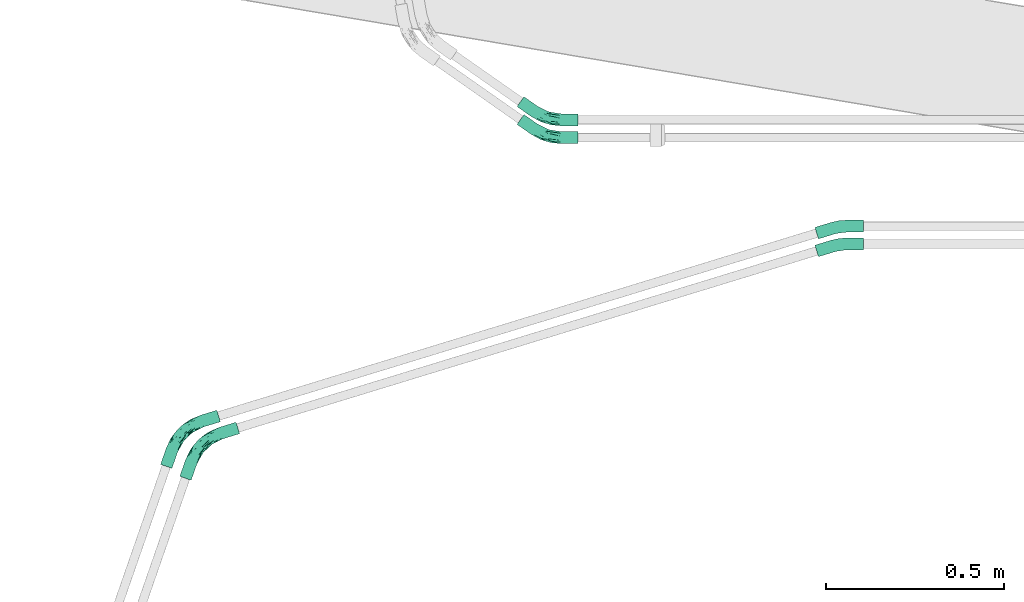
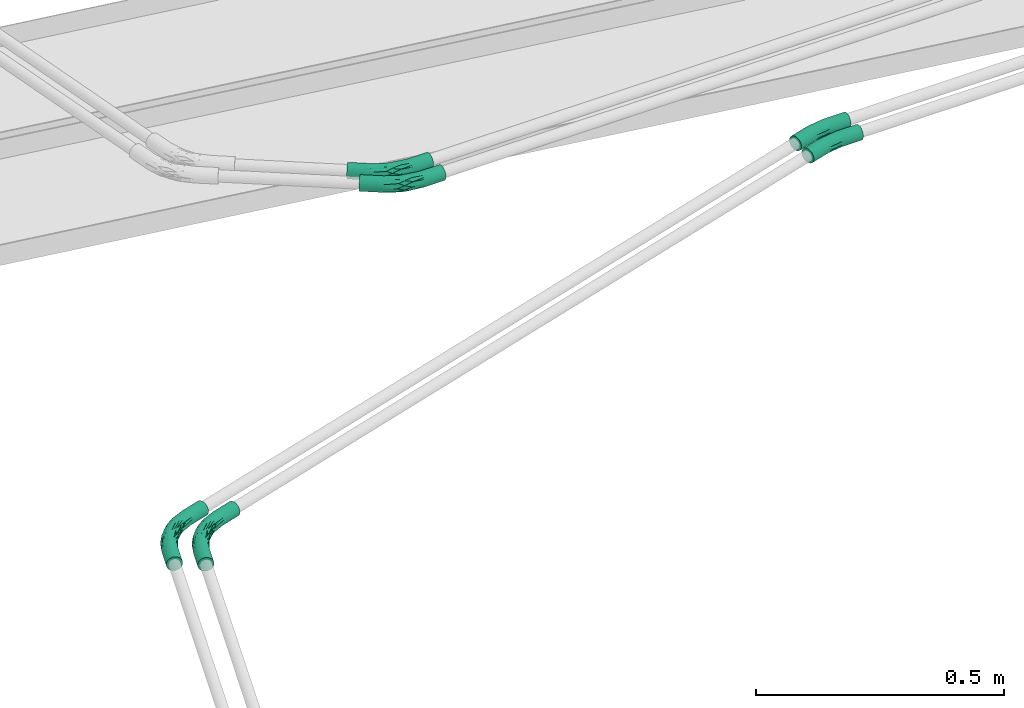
# One storey, part 8 of 22: 6 flow fittings.
"""IFC2X3 building model written with IfcOpenShell, lengths in millimetres."""

from ifc_helpers import new_model, entity, si_unit, converted_unit, derived_unit, direction, frame, origin_with_axes, place, context, subcontext, project, spatial, open_shell, surface_model, source, transform, mapped, type_object, element, save


model = new_model("IFC2X3")

# Units and contexts
model_context = context("Model", 3, precision=0.01, world=frame((0.0, 4.29681676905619e-09, 0.0)), true_north=direction((4.01073788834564e-13, 1.0)))
plan_context = context("Plan", 3, precision=0.01, world=frame((0.0, 4.29681676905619e-09, 0.0)), true_north=direction((4.01073788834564e-13, 1.0)))
body_context = subcontext(model_context, "Body", "Model", "MODEL_VIEW")
ifc_project = project(units=[converted_unit("PLANEANGLEUNIT", "DEGREE", entity("IfcPositiveLengthMeasure", 0.0174532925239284), si_unit("PLANEANGLEUNIT", "RADIAN"), dimensions=[0, 0, 0, 0, 0, 0, 0]), si_unit("AREAUNIT", "SQUARE_METRE"), si_unit("LENGTHUNIT", "METRE", prefix="MILLI"), si_unit("MASSUNIT", "GRAM", prefix="KILO"), si_unit("POWERUNIT", "WATT"), si_unit("PRESSUREUNIT", "PASCAL", prefix="KILO"), si_unit("FORCEUNIT", "NEWTON", prefix="KILO"), si_unit("ELECTRICVOLTAGEUNIT", "VOLT"), si_unit("ELECTRICCURRENTUNIT", "AMPERE"), si_unit("THERMODYNAMICTEMPERATUREUNIT", "DEGREE_CELSIUS"), si_unit("TIMEUNIT", "SECOND"), si_unit("VOLUMEUNIT", "CUBIC_METRE"), derived_unit("LINEARVELOCITYUNIT", [(si_unit("LENGTHUNIT", "METRE"), 1), (si_unit("TIMEUNIT", "SECOND"), -1)]), derived_unit("VOLUMETRICFLOWRATEUNIT", [(si_unit("VOLUMEUNIT", "CUBIC_METRE"), 1), (si_unit("TIMEUNIT", "SECOND"), -1)]), derived_unit("THERMALTRANSMITTANCEUNIT", [(si_unit("POWERUNIT", "WATT"), 1), (si_unit("THERMODYNAMICTEMPERATUREUNIT", "KELVIN"), -1), (si_unit("AREAUNIT", "SQUARE_METRE"), -1)]), derived_unit("SOUNDPRESSUREUNIT", [(si_unit("PRESSUREUNIT", "PASCAL"), 1)])], contexts=[model_context, plan_context])

# Site, building, storey
site_placement = place(None, frame((0.0, -4.29681676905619e-09, 0.0), z_axis=(0.0, 0.0, 1.0), x_axis=(1.0, 0.0, 0.0)))
site = spatial("IfcSite", under=ifc_project, at=site_placement, Name="ENGM", CompositionType="ELEMENT")
building_placement = place(site_placement, frame((0.0, 4.29681676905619e-09, 0.0), z_axis=(0.0, 0.0, 1.0), x_axis=(1.0, 0.0, 0.0)))
building = spatial("IfcBuilding", under=site, at=building_placement, Name="TI", CompositionType="ELEMENT")
storey_placement = place(building_placement, frame((0.0, 0.0, 210900.0), z_axis=(0.0, 0.0, 1.0), x_axis=(1.0, 0.0, 0.0)))
storey = spatial("IfcBuildingStorey", under=building, at=storey_placement, Name="Nivå F", CompositionType="ELEMENT", Elevation=210900.0)

# Flow fittings
cable_carrier_fitting_type = type_object("IfcCableCarrierFittingType", Name="Trekkerør, glatt bend", PredefinedType="BEND")
shared_shape_1 = source(origin_with_axes(), body_context, "Body", "SurfaceModel", [
    surface_model("IfcShellBasedSurfaceModel", [(-67.01386, 8.46055, -14.6541), (-67.01386, 4.3795, -16.34452), (-67.01386, 0.0, -16.92109), (-67.01386, -4.3795, -16.34452), (-67.01386, -8.46055, -14.6541), (-67.01386, -14.6541, -8.46055), (-67.01386, 16.92109, 0.0), (-67.01386, -11.96502, -11.96502), (-67.01386, -11.96502, 11.96502), (-67.01386, 14.6541, -8.46055), (-67.01386, 11.96502, -11.96502), (-67.01386, 16.34452, -4.3795), (-67.01386, -16.34452, -4.3795), (-67.01386, -16.92109, 0.0), (-67.01386, -16.34452, 4.3795), (-67.01386, -14.6541, 8.46055), (-67.01386, 0.0, 16.92109), (-67.01386, -8.46055, 14.6541), (-67.01386, -4.3795, 16.34452), (-67.01386, 14.6541, 8.46055), (-67.01386, 8.46055, 14.6541), (-67.01386, 11.96502, 11.96502), (-67.01386, 16.34452, 4.3795), (-67.01386, 4.3795, 16.34452), (-19.69589, 16.34452, 4.3795), (-19.69589, 16.92109, 0.0), (-19.69589, 14.6541, 8.46055), (-19.69589, 8.46055, 14.6541), (-19.69589, 11.96502, 11.96502), (-19.69589, 4.3795, 16.34452), (-19.69589, 0.0, 16.92109), (-19.69589, -8.46055, 14.6541), (-19.69589, -4.3795, 16.34452), (-19.69589, -11.96502, 11.96502), (-19.69589, -16.34452, 4.3795), (-19.69589, -14.6541, 8.46055), (-19.69589, -16.92109, 0.0), (-19.69589, -16.34452, -4.3795), (-19.69589, -14.6541, -8.46055), (-19.69589, -8.46055, -14.6541), (-19.69589, -11.96502, -11.96502), (-19.69589, -4.3795, -16.34452), (-19.69589, 0.0, -16.92109), (-19.69589, 8.46055, -14.6541), (-19.69589, 4.3795, -16.34452), (-19.69589, 11.96502, -11.96502), (-19.69589, 16.34452, -4.3795), (-19.69589, 14.6541, -8.46055), (22.33351, 5.68368, 11.96502), (21.3089, 2.33234, 14.6541), (20.11572, -1.57038, 16.34452), (18.83527, -5.75852, 16.92109), (17.55483, -9.94666, 16.34452), (23.11972, 8.25526, 8.46055), (14.55083, -19.7723, 8.46055), (15.33704, -17.20073, 11.96502), (14.0566, -21.38887, 4.3795), (-2.71744, -18.18281, 0.0), (16.36165, -13.84938, 14.6541), (2.28475, 15.28765, 0.0), (23.61395, 9.87182, 4.3795), (23.78252, 10.4232, 0.0), (13.88803, -21.94024, 0.0), (20.11572, -1.57038, -16.34452), (18.83527, -5.75852, -16.92109), (14.0566, -21.38887, -4.3795), (16.36165, -13.84938, -14.6541), (17.55483, -9.94666, -16.34452), (15.33704, -17.20073, -11.96502), (23.61395, 9.87182, -4.3795), (22.33351, 5.68368, -11.96502), (23.11972, 8.25526, -8.46055), (21.3089, 2.33234, -14.6541), (14.55083, -19.7723, -8.46055), (64.08567, -19.59296, -16.92109), (67.58391, -8.15075, -11.96502), (62.80523, -23.7811, -16.34452), (61.61205, -27.68382, -14.6541), (59.80123, -33.60674, -8.46055), (60.58744, -31.03516, -11.96502), (69.03292, -3.41123, 0.0), (68.86435, -3.96261, 4.3795), (66.5593, -11.50209, -14.6541), (65.36611, -15.40482, -16.34452), (68.37011, -5.57917, -8.46055), (68.86435, -3.96261, -4.3795), (59.30699, -35.2233, -4.3795), (59.13842, -35.77468, 0.0), (67.58391, -8.15075, 11.96502), (59.30699, -35.2233, 4.3795), (59.80123, -33.60674, 8.46055), (60.58744, -31.03516, 11.96502), (61.61205, -27.68382, 14.6541), (64.08567, -19.59296, 16.92109), (62.80523, -23.7811, 16.34452), (68.37011, -5.57917, 8.46055), (65.36611, -15.40482, 16.34452), (66.5593, -11.50209, 14.6541)], [open_shell([[[0, 1, 2]], [[2, 3, 4]], [[2, 4, 5]], [[2, 5, 6]], [[5, 4, 7]], [[8, 6, 5]], [[0, 9, 10]], [[0, 11, 9]], [[0, 2, 11]], [[6, 11, 2]], [[5, 12, 8]], [[13, 14, 15]], [[13, 15, 8]], [[16, 6, 17]], [[6, 8, 17]], [[16, 17, 18]], [[19, 20, 21]], [[19, 22, 6]], [[20, 16, 23]], [[20, 19, 6]], [[20, 6, 16]], [[12, 13, 8]], [[24, 25, 22]], [[24, 19, 26]], [[27, 28, 20]], [[21, 28, 26]], [[29, 27, 23]], [[6, 22, 25]], [[22, 19, 24]], [[19, 21, 26]], [[21, 20, 28]], [[27, 20, 23]], [[23, 16, 29]], [[16, 30, 29]], [[31, 32, 17]], [[31, 8, 33]], [[34, 35, 14]], [[15, 35, 33]], [[36, 34, 13]], [[30, 18, 32]], [[18, 17, 32]], [[16, 18, 30]], [[17, 8, 31]], [[8, 15, 33]], [[35, 15, 14]], [[14, 13, 34]], [[37, 36, 12]], [[37, 5, 38]], [[39, 40, 4]], [[7, 40, 38]], [[41, 39, 3]], [[13, 12, 36]], [[12, 5, 37]], [[5, 7, 38]], [[7, 4, 40]], [[39, 4, 3]], [[3, 2, 41]], [[2, 42, 41]], [[43, 44, 0]], [[43, 10, 45]], [[46, 47, 11]], [[9, 47, 45]], [[25, 46, 6]], [[42, 1, 44]], [[1, 0, 44]], [[2, 1, 42]], [[0, 10, 43]], [[10, 9, 45]], [[47, 9, 11]], [[11, 6, 46]], [[48, 26, 28]], [[28, 27, 49]], [[27, 29, 50]], [[29, 30, 51]], [[52, 30, 32]], [[26, 53, 24]], [[54, 33, 35]], [[33, 55, 31]], [[56, 34, 57]], [[34, 36, 57]], [[35, 34, 56]], [[32, 31, 58]], [[59, 25, 24]], [[27, 50, 49]], [[49, 48, 28]], [[29, 51, 50]], [[60, 24, 53]], [[48, 53, 26]], [[60, 61, 59]], [[35, 56, 54]], [[56, 57, 62]], [[52, 32, 58]], [[55, 58, 31]], [[55, 33, 54]], [[51, 30, 52]], [[60, 59, 24]], [[63, 42, 44]], [[64, 41, 42]], [[37, 38, 65]], [[39, 66, 40]], [[67, 39, 41]], [[40, 68, 38]], [[46, 25, 59]], [[46, 59, 69]], [[43, 45, 70]], [[69, 47, 46]], [[47, 71, 45]], [[44, 43, 72]], [[57, 36, 37]], [[65, 62, 57]], [[38, 73, 65]], [[68, 40, 66]], [[67, 66, 39]], [[38, 68, 73]], [[41, 64, 67]], [[63, 44, 72]], [[72, 43, 70]], [[69, 71, 47]], [[59, 61, 69]], [[70, 45, 71]], [[42, 63, 64]], [[65, 57, 37]], [[74, 75, 76]], [[77, 76, 78]], [[78, 76, 75]], [[79, 77, 78]], [[78, 80, 81]], [[82, 75, 83]], [[75, 74, 83]], [[84, 85, 75]], [[80, 75, 85]], [[75, 80, 78]], [[81, 86, 78]], [[87, 88, 89]], [[90, 89, 91]], [[88, 92, 89]], [[91, 89, 92]], [[92, 93, 94]], [[95, 88, 81]], [[88, 87, 81]], [[96, 93, 97]], [[88, 97, 93]], [[88, 93, 92]], [[86, 81, 87]], [[81, 80, 60]], [[81, 53, 95]], [[97, 88, 49]], [[48, 88, 95]], [[96, 97, 50]], [[61, 60, 80]], [[60, 53, 81]], [[53, 48, 95]], [[48, 49, 88]], [[97, 49, 50]], [[50, 51, 96]], [[51, 93, 96]], [[92, 94, 58]], [[92, 55, 91]], [[89, 90, 56]], [[54, 90, 91]], [[87, 89, 62]], [[93, 52, 94]], [[52, 58, 94]], [[51, 52, 93]], [[58, 55, 92]], [[55, 54, 91]], [[90, 54, 56]], [[56, 62, 89]], [[86, 87, 62]], [[86, 65, 78]], [[67, 76, 77]], [[68, 77, 79]], [[79, 78, 73]], [[65, 73, 78]], [[86, 62, 65]], [[66, 77, 68]], [[67, 77, 66]], [[67, 64, 76]], [[79, 73, 68]], [[64, 74, 76]], [[82, 83, 72]], [[82, 70, 75]], [[85, 84, 69]], [[71, 84, 75]], [[80, 85, 61]], [[74, 63, 83]], [[63, 72, 83]], [[64, 63, 74]], [[72, 70, 82]], [[70, 71, 75]], [[84, 71, 69]], [[69, 61, 85]]])]),
])
for number, where, z_axis, x_axis, name in (
    (1, (586178.42792, 576401.49851, -56.7999999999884), (0.0, 0.0, 1.0), (0.956304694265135, 0.292371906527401, 0.0), "Trekkerør, glatt bend"),
    (2, (586178.42792, 576451.49851, -56.7999999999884), (0.0, 0.0, 1.0), (0.956304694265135, 0.292371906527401, 0.0), "Trekkerør, glatt bend"),
):
    element("IfcFlowFitting", number, at=place(storey_placement, frame(where, z_axis=z_axis, x_axis=x_axis)), inside=storey, type_object=cable_carrier_fitting_type, Name=name, context=body_context, shape_type="MappedRepresentation", body=[
        mapped(shared_shape_1, transform((0.0, 0.0, 0.0), scale=1.0)),
    ])
shared_shape_2 = source(origin_with_axes(), body_context, "Body", "SurfaceModel", [
    surface_model("IfcShellBasedSurfaceModel", [(-114.18104, 8.46055, -14.6541), (-114.18104, 4.3795, -16.34452), (-114.18104, 0.0, -16.92109), (-114.18104, 14.6541, -8.46055), (-114.18104, -8.46055, -14.6541), (-114.18104, 11.96502, -11.96502), (-114.18104, -16.92109, 0.0), (-114.18104, -16.34452, 4.3795), (-114.18104, -11.96502, -11.96502), (-114.18104, -14.6541, -8.46055), (-114.18104, -4.3795, -16.34452), (-114.18104, -16.34452, -4.3795), (-114.18104, 16.92109, 0.0), (-114.18104, 16.34452, -4.3795), (-114.18104, 16.34452, 4.3795), (-114.18104, 14.6541, 8.46055), (-114.18104, 8.46055, 14.6541), (-114.18104, 11.96502, 11.96502), (-114.18104, 0.0, 16.92109), (-114.18104, 4.3795, 16.34452), (-114.18104, -11.96502, 11.96502), (-114.18104, -8.46055, 14.6541), (-114.18104, -14.6541, 8.46055), (-114.18104, -4.3795, 16.34452), (-66.86307, -16.92109, 0.0), (-66.86307, -16.34452, 4.3795), (-66.86307, -14.6541, 8.46055), (-66.86307, -11.96502, 11.96502), (-66.86307, -8.46055, 14.6541), (-66.86307, -4.3795, 16.34452), (-66.86307, 0.0, 16.92109), (-66.86307, 4.3795, 16.34452), (-66.86307, 8.46055, 14.6541), (-66.86307, 11.96502, 11.96502), (-66.86307, 14.6541, 8.46055), (-66.86307, 16.34452, 4.3795), (-66.86307, 16.92109, 0.0), (-66.86307, 16.34452, -4.3795), (-66.86307, 14.6541, -8.46055), (-66.86307, 11.96502, -11.96502), (-66.86307, 8.46055, -14.6541), (-66.86307, 4.3795, -16.34452), (-66.86307, 0.0, -16.92109), (-66.86307, -4.3795, -16.34452), (-66.86307, -8.46055, -14.6541), (-66.86307, -11.96502, -11.96502), (-66.86307, -14.6541, -8.46055), (-66.86307, -16.34452, -4.3795), (-7.95797, -4.42749, 3.1862), (-35.42196, -13.15403, 3.63992), (-32.27242, -12.84216, 0.0), (43.0219, 51.37087, 16.34452), (39.48772, 53.9573, 16.92109), (21.78288, 31.11607, 16.75716), (-28.2681, -1.16114, 15.55965), (-36.24238, -7.08238, 13.33358), (-32.48914, -9.40106, 10.16826), (-43.40125, -13.61824, 6.79025), (-33.3333, 18.16273, 10.43706), (-37.97456, 0.798, 16.75716), (-4.61214, 9.09061, 15.89686), (32.66021, 58.95389, 14.6541), (29.83216, 61.02355, 11.96502), (13.72034, 40.73345, 13.50422), (-9.40332, 18.53411, 16.22846), (-29.16631, 7.61689, 16.79998), (11.07823, 28.03505, 16.79998), (-36.81854, 9.98559, 15.69055), (0.42066, -0.82913, 0.0), (29.42271, 18.45899, 0.0), (15.53221, 8.29758, 2.92209), (-40.97407, 12.98412, 13.50422), (51.31331, 45.30294, 8.46055), (49.14327, 46.89105, 11.96502), (28.60105, 22.24115, 10.17752), (-16.70811, 26.90629, 6.71647), (-43.67359, 17.90107, 6.63933), (13.68595, 35.60915, 15.69055), (35.95354, 56.54373, 16.34452), (-29.39279, 22.78636, 3.63614), (27.26363, 25.19258, 13.33415), (-4.16877, 35.06109, 3.66136), (26.29798, 63.60998, 4.3795), (9.20666, 43.94014, 6.59732), (27.66212, 62.61165, 8.46055), (17.63148, 22.12611, 15.55965), (46.31523, 48.9607, 14.6541), (36.27692, 25.07799, 3.1792), (22.76936, 14.64862, 6.28703), (52.67745, 44.30462, 4.3795), (2.86445, 3.39946, 9.02542), (53.14274, 43.96411, 0.0), (-2.4602, 4.84909, 13.22646), (3.5245, 36.48876, 10.44458), (-11.7917, 23.24165, 13.59813), (25.8327, 63.95049, 0.0), (0.44002, 38.70356, 0.0), (-31.49295, 22.5023, 0.0), (-6.09794, 12.01915, 16.73333), (-17.17436, -7.10447, 6.24887), (-4.44654, 24.36305, 15.14505), (-31.04354, 11.52814, -15.70174), (9.20666, 43.94014, -6.59732), (3.5245, 36.48876, -10.44458), (-16.70811, 26.90629, -6.71647), (15.35976, 8.89418, -5.28368), (-1.07229, 2.11351, -10.03898), (29.00466, 22.59625, -10.17958), (-40.97407, 12.98412, -13.50422), (-29.39279, 22.78636, -3.63614), (27.66212, 62.61165, -8.46055), (29.83216, 61.02355, -11.96502), (-4.16877, 35.06109, -3.66136), (-27.48572, -4.89323, -13.30679), (-33.3333, 18.16273, -10.43706), (-43.67359, 17.90107, -6.63933), (-11.7917, 23.24165, -13.59813), (-39.02557, 5.09311, -16.79389), (-26.5563, -10.09311, -6.29304), (-35.36422, -10.06144, -10.17958), (-41.67473, -14.46692, -3.17756), (51.31331, 45.30294, -8.46055), (36.78908, 26.89793, -6.37043), (-36.95798, -3.34037, -15.57665), (9.03056, 31.85982, -15.70174), (-8.09915, 15.96357, -16.81304), (-29.17558, 3.00766, -16.75093), (32.66021, 58.95389, -14.6541), (35.95354, 56.54373, -16.34452), (18.93752, 34.5008, -16.79389), (26.29798, 63.60998, -4.3795), (39.48772, 53.9573, -16.92109), (43.0219, 51.37087, -16.34452), (14.80326, 25.32043, -16.75093), (20.18115, 19.29066, -13.30679), (46.31523, 48.9607, -14.6541), (49.14327, 46.89105, -11.96502), (13.72034, 40.73345, -13.50422), (24.52211, 27.85168, -15.57665), (-6.60087, 13.01042, -16.86289), (-4.17447, 8.22795, -15.50993), (-2.8082, 5.53501, -13.80517), (52.67745, 44.30462, -4.3795), (-15.87372, -7.6289, -2.95781), (36.50825, 25.29169, -3.14006), (67.43257, 92.14205, -16.92109), (63.89839, 94.72848, -16.34452), (60.60506, 97.13865, -14.6541), (57.77701, 99.20831, -11.96502), (55.60698, 100.79641, -8.46055), (81.08759, 82.14886, 0.0), (53.77755, 102.13524, 0.0), (74.26008, 87.14545, -14.6541), (79.25816, 83.48769, -8.46055), (77.08813, 85.0758, -11.96502), (70.96675, 89.55563, -16.34452), (80.6223, 82.48937, -4.3795), (54.24283, 101.79473, -4.3795), (54.24283, 101.79473, 4.3795), (55.60698, 100.79641, 8.46055), (57.77701, 99.20831, 11.96502), (60.60506, 97.13865, 14.6541), (79.25816, 83.48769, 8.46055), (63.89839, 94.72848, 16.34452), (74.26008, 87.14545, 14.6541), (77.08813, 85.0758, 11.96502), (80.6223, 82.48937, 4.3795), (70.96675, 89.55563, 16.34452), (67.43257, 92.14205, 16.92109)], [open_shell([[[0, 1, 2]], [[3, 0, 2]], [[4, 3, 2]], [[5, 0, 3]], [[3, 6, 7]], [[8, 9, 4]], [[2, 10, 4]], [[9, 11, 4]], [[11, 3, 4]], [[3, 11, 6]], [[12, 13, 3]], [[12, 7, 14]], [[14, 7, 15]], [[16, 17, 18]], [[15, 18, 17]], [[18, 19, 16]], [[20, 21, 22]], [[15, 7, 22]], [[23, 18, 21]], [[15, 22, 21]], [[15, 21, 18]], [[3, 7, 12]], [[7, 24, 25]], [[26, 22, 25]], [[21, 27, 28]], [[26, 27, 20]], [[23, 28, 29]], [[24, 7, 6]], [[25, 22, 7]], [[26, 20, 22]], [[27, 21, 20]], [[23, 21, 28]], [[29, 18, 23]], [[29, 30, 18]], [[16, 31, 32]], [[33, 17, 32]], [[14, 34, 35]], [[33, 34, 15]], [[12, 35, 36]], [[31, 19, 30]], [[31, 16, 19]], [[30, 19, 18]], [[32, 17, 16]], [[33, 15, 17]], [[14, 15, 34]], [[35, 12, 14]], [[13, 36, 37]], [[38, 3, 37]], [[0, 39, 40]], [[38, 39, 5]], [[1, 40, 41]], [[36, 13, 12]], [[37, 3, 13]], [[38, 5, 3]], [[39, 0, 5]], [[1, 0, 40]], [[41, 2, 1]], [[41, 42, 2]], [[4, 43, 44]], [[45, 8, 44]], [[11, 46, 47]], [[45, 46, 9]], [[6, 47, 24]], [[43, 10, 42]], [[43, 4, 10]], [[42, 10, 2]], [[44, 8, 4]], [[45, 9, 8]], [[11, 9, 46]], [[47, 6, 11]], [[48, 49, 50]], [[49, 24, 50]], [[51, 52, 53]], [[29, 28, 54]], [[55, 27, 56]], [[25, 49, 57]], [[34, 33, 58]], [[59, 54, 60]], [[59, 30, 29]], [[61, 62, 63]], [[64, 65, 66]], [[67, 31, 65]], [[68, 69, 70]], [[33, 32, 71]], [[72, 73, 74]], [[58, 75, 76]], [[65, 31, 30]], [[26, 56, 27]], [[77, 78, 61]], [[75, 79, 76]], [[80, 74, 73]], [[36, 35, 79]], [[81, 79, 75]], [[32, 31, 67]], [[59, 65, 30]], [[48, 68, 70]], [[50, 68, 48]], [[82, 83, 84]], [[85, 51, 53]], [[63, 77, 61]], [[71, 58, 33]], [[85, 86, 51]], [[87, 88, 70]], [[66, 52, 78]], [[80, 73, 86]], [[72, 88, 89]], [[90, 88, 74]], [[74, 88, 72]], [[27, 55, 28]], [[91, 89, 87]], [[90, 92, 56]], [[93, 58, 94]], [[55, 54, 28]], [[81, 75, 83]], [[26, 57, 56]], [[95, 96, 82]], [[66, 77, 64]], [[81, 97, 79]], [[83, 93, 84]], [[62, 84, 93]], [[60, 98, 59]], [[63, 93, 94]], [[80, 85, 92]], [[78, 77, 66]], [[66, 98, 53]], [[60, 92, 85]], [[58, 93, 75]], [[99, 88, 90]], [[67, 64, 100]], [[98, 66, 65]], [[71, 67, 94]], [[56, 92, 55]], [[54, 55, 92]], [[85, 80, 86]], [[92, 74, 80]], [[54, 59, 29]], [[65, 59, 98]], [[66, 53, 52]], [[53, 98, 60]], [[81, 82, 96]], [[93, 83, 75]], [[67, 71, 32]], [[58, 71, 94]], [[93, 63, 62]], [[63, 94, 100]], [[92, 90, 74]], [[56, 99, 90]], [[82, 81, 83]], [[97, 81, 96]], [[36, 79, 97]], [[76, 35, 34]], [[35, 76, 79]], [[58, 76, 34]], [[100, 64, 77]], [[67, 65, 64]], [[87, 70, 69]], [[48, 88, 99]], [[91, 87, 69]], [[88, 87, 89]], [[88, 48, 70]], [[48, 99, 49]], [[57, 49, 99]], [[24, 49, 25]], [[56, 57, 99]], [[25, 57, 26]], [[92, 60, 54]], [[53, 60, 85]], [[63, 100, 77]], [[67, 100, 94]], [[101, 41, 40]], [[102, 103, 104]], [[105, 106, 107]], [[39, 108, 40]], [[97, 109, 36]], [[103, 110, 111]], [[97, 112, 109]], [[45, 44, 113]], [[114, 39, 38]], [[115, 114, 38]], [[114, 103, 116]], [[42, 41, 117]], [[118, 46, 119]], [[103, 114, 104]], [[24, 47, 120]], [[107, 121, 122]], [[118, 47, 46]], [[108, 114, 116]], [[123, 44, 43]], [[101, 124, 125]], [[113, 119, 45]], [[44, 123, 113]], [[43, 42, 126]], [[124, 101, 116]], [[117, 101, 125]], [[127, 128, 124]], [[97, 96, 112]], [[129, 124, 128]], [[96, 95, 130]], [[131, 132, 133]], [[110, 102, 130]], [[134, 135, 136]], [[108, 101, 40]], [[103, 111, 137]], [[124, 116, 137]], [[112, 130, 102]], [[128, 131, 129]], [[138, 133, 132]], [[139, 140, 126]], [[127, 137, 111]], [[139, 125, 129]], [[133, 139, 129]], [[140, 138, 134]], [[134, 141, 140]], [[142, 122, 121]], [[143, 68, 50]], [[134, 136, 107]], [[132, 135, 138]], [[69, 68, 105]], [[107, 136, 121]], [[69, 144, 91]], [[106, 105, 118]], [[105, 68, 143]], [[120, 118, 143]], [[141, 106, 113]], [[117, 126, 42]], [[45, 119, 46]], [[115, 37, 109]], [[123, 126, 140]], [[105, 122, 144]], [[106, 134, 107]], [[113, 106, 119]], [[118, 119, 106]], [[126, 123, 43]], [[113, 123, 140]], [[134, 138, 135]], [[133, 138, 140]], [[101, 117, 41]], [[117, 125, 139]], [[133, 129, 131]], [[124, 129, 125]], [[103, 102, 110]], [[112, 102, 104]], [[114, 108, 39]], [[101, 108, 116]], [[124, 137, 127]], [[103, 137, 116]], [[112, 104, 109]], [[130, 112, 96]], [[115, 109, 104]], [[36, 109, 37]], [[114, 115, 104]], [[37, 115, 38]], [[144, 122, 142]], [[107, 122, 105]], [[91, 144, 142]], [[105, 144, 69]], [[120, 143, 50]], [[105, 143, 118]], [[24, 120, 50]], [[118, 120, 47]], [[106, 141, 134]], [[113, 140, 141]], [[140, 139, 133]], [[117, 139, 126]], [[145, 146, 147]], [[145, 147, 148]], [[145, 149, 150]], [[149, 145, 148]], [[151, 150, 149]], [[152, 153, 154]], [[152, 155, 145]], [[153, 150, 156]], [[153, 152, 145]], [[150, 153, 145]], [[149, 157, 151]], [[151, 158, 159]], [[151, 159, 160]], [[161, 162, 150]], [[161, 151, 160]], [[162, 161, 163]], [[162, 164, 165]], [[166, 150, 162]], [[162, 167, 164]], [[167, 162, 168]], [[163, 168, 162]], [[150, 151, 161]], [[89, 150, 166]], [[162, 72, 166]], [[86, 165, 164]], [[162, 165, 73]], [[51, 164, 167]], [[150, 89, 91]], [[166, 72, 89]], [[162, 73, 72]], [[165, 86, 73]], [[51, 86, 164]], [[167, 52, 51]], [[167, 168, 52]], [[61, 163, 161]], [[160, 62, 161]], [[82, 159, 158]], [[160, 159, 84]], [[95, 158, 151]], [[163, 78, 168]], [[163, 61, 78]], [[168, 78, 52]], [[161, 62, 61]], [[160, 84, 62]], [[82, 84, 159]], [[158, 95, 82]], [[95, 151, 157]], [[149, 130, 157]], [[147, 146, 128]], [[148, 147, 111]], [[110, 149, 148]], [[149, 110, 130]], [[130, 95, 157]], [[111, 147, 127]], [[127, 147, 128]], [[146, 131, 128]], [[111, 110, 148]], [[146, 145, 131]], [[135, 155, 152]], [[154, 136, 152]], [[142, 153, 156]], [[154, 153, 121]], [[91, 156, 150]], [[155, 132, 145]], [[155, 135, 132]], [[145, 132, 131]], [[152, 136, 135]], [[154, 121, 136]], [[142, 121, 153]], [[156, 91, 142]]])]),
])
for number, where, z_axis, x_axis, name in (
    (3, (584382.09742, 575852.30516, -56.7999999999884), (0.0, 0.0, 1.0), (-0.956304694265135, -0.292371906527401, 0.0), "Trekkerør, glatt bend"),
    (4, (584328.21779, 575885.83251, -56.7999999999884), (0.0, 0.0, 1.0), (-0.956304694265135, -0.292371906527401, 0.0), "Trekkerør, glatt bend"),
):
    element("IfcFlowFitting", number, at=place(storey_placement, frame(where, z_axis=z_axis, x_axis=x_axis)), inside=storey, type_object=cable_carrier_fitting_type, Name=name, context=body_context, shape_type="MappedRepresentation", body=[
        mapped(shared_shape_2, transform((0.0, 0.0, 0.0), scale=1.0)),
    ])
shared_shape_3 = source(origin_with_axes(), body_context, "Body", "SurfaceModel", [
    surface_model("IfcShellBasedSurfaceModel", [(-88.87066, 8.46055, -14.6541), (-88.87066, 4.3795, -16.34452), (-88.87066, 0.0, -16.92109), (-88.87066, 14.6541, -8.46055), (-88.87066, -8.46055, -14.6541), (-88.87066, 11.96502, -11.96502), (-88.87066, -16.92109, 0.0), (-88.87066, -16.34452, 4.3795), (-88.87066, -11.96502, -11.96502), (-88.87066, -14.6541, -8.46055), (-88.87066, -4.3795, -16.34452), (-88.87066, -16.34452, -4.3795), (-88.87066, 16.92109, 0.0), (-88.87066, 16.34452, -4.3795), (-88.87066, 16.34452, 4.3795), (-88.87066, 14.6541, 8.46055), (-88.87066, 8.46055, 14.6541), (-88.87066, 11.96502, 11.96502), (-88.87066, 0.0, 16.92109), (-88.87066, 4.3795, 16.34452), (-88.87066, -11.96502, 11.96502), (-88.87066, -8.46055, 14.6541), (-88.87066, -14.6541, 8.46055), (-88.87066, -4.3795, 16.34452), (-41.55269, -16.92109, 0.0), (-41.55269, -16.34452, 4.3795), (-41.55269, -14.6541, 8.46055), (-41.55269, -11.96502, 11.96502), (-41.55269, -8.46055, 14.6541), (-41.55269, -4.3795, 16.34452), (-41.55269, 0.0, 16.92109), (-41.55269, 4.3795, 16.34452), (-41.55269, 8.46055, 14.6541), (-41.55269, 11.96502, 11.96502), (-41.55269, 14.6541, 8.46055), (-41.55269, 16.34452, 4.3795), (-41.55269, 16.92109, 0.0), (-41.55269, 16.34452, -4.3795), (-41.55269, 14.6541, -8.46055), (-41.55269, 11.96502, -11.96502), (-41.55269, 8.46055, -14.6541), (-41.55269, 4.3795, -16.34452), (-41.55269, 0.0, -16.92109), (-41.55269, -4.3795, -16.34452), (-41.55269, -8.46055, -14.6541), (-41.55269, -11.96502, -11.96502), (-41.55269, -14.6541, -8.46055), (-41.55269, -16.34452, -4.3795), (2.90029, -9.19856, 5.38748), (-11.48104, -13.84885, 0.0), (-9.27928, -9.85588, 10.22003), (1.20669, -3.82712, 13.34122), (19.86976, 0.15259, 10.23803), (34.03797, 23.83364, 16.92109), (11.21471, 11.56856, 16.91377), (36.54995, 20.24616, 16.34452), (-9.97623, -2.91658, 15.59436), (-1.22017, 3.86989, 16.75881), (24.33243, 37.69459, 0.0), (2.41695, 25.3289, 3.24961), (24.66313, 37.22229, 4.3795), (40.90082, 14.03247, 11.96502), (38.89074, 16.90317, 14.6541), (-11.06472, 5.74517, 16.78899), (-3.83563, 12.16507, 15.68042), (-12.01933, 13.8649, 13.48391), (29.1852, 30.76412, 14.6541), (7.86439, 19.14087, 14.46607), (31.52599, 27.42112, 16.34452), (-5.93803, 18.83303, 10.39535), (-1.29023, 22.79398, 6.56595), (42.44321, 11.82971, 8.46055), (-21.1026, 18.54685, 2.632), (27.17511, 33.63481, 11.96502), (25.63272, 35.83757, 8.46055), (17.34809, -4.75906, 0.0), (17.57572, 6.73024, 15.60468), (9.01394, 14.11226, 16.50988), (43.74351, 9.97269, 0.0), (43.4128, 10.44499, 4.3795), (-7.01146, 22.2375, 0.0), (-15.82201, 3.04391, -16.91377), (-1.22017, 3.86989, -16.75881), (-18.25749, -4.56793, -15.60468), (2.90029, -9.19856, -5.38748), (-16.36388, -11.27183, -10.23803), (13.25424, -2.75109, -10.22003), (-3.83563, 12.16507, -15.68042), (5.7684, 11.05263, -16.78899), (-15.47825, 6.38991, -16.50988), (-12.0172, 19.41179, -6.56595), (-5.93803, 18.83303, -10.39535), (9.84493, 3.33301, -15.59436), (1.89307, 18.25147, -13.48391), (-17.42088, 11.16845, -14.46607), (1.20669, -3.82712, -13.34122), (-16.50791, 19.36192, -3.24961), (43.4128, 10.44499, -4.3795), (40.90082, 14.03247, -11.96502), (42.44321, 11.82971, -8.46055), (24.66313, 37.22229, -4.3795), (6.6482, 27.29665, -2.632), (36.54995, 20.24616, -16.34452), (38.89074, 16.90317, -14.6541), (25.63272, 35.83757, -8.46055), (27.17511, 33.63481, -11.96502), (29.1852, 30.76412, -14.6541), (31.52599, 27.42112, -16.34452), (34.03797, 23.83364, -16.92109), (75.31056, 47.38664, -16.34452), (72.79858, 50.97411, -16.92109), (70.2866, 54.56159, -16.34452), (67.94581, 57.90459, -14.6541), (65.93572, 60.77528, -11.96502), (64.39334, 62.97805, -8.46055), (63.42374, 64.36276, -4.3795), (63.42374, 64.36276, 4.3795), (82.50412, 37.11316, 0.0), (77.65135, 44.04364, -14.6541), (81.20382, 38.97018, -8.46055), (79.66143, 41.17294, -11.96502), (82.17341, 37.58546, -4.3795), (63.09304, 64.83506, 0.0), (64.39334, 62.97805, 8.46055), (79.66143, 41.17294, 11.96502), (67.94581, 57.90459, 14.6541), (65.93572, 60.77528, 11.96502), (70.2866, 54.56159, 16.34452), (72.79858, 50.97411, 16.92109), (81.20382, 38.97018, 8.46055), (82.17341, 37.58546, 4.3795), (75.31056, 47.38664, 16.34452), (77.65135, 44.04364, 14.6541)], [open_shell([[[0, 1, 2]], [[3, 0, 2]], [[4, 3, 2]], [[5, 0, 3]], [[3, 6, 7]], [[8, 9, 4]], [[2, 10, 4]], [[9, 11, 4]], [[11, 3, 4]], [[3, 11, 6]], [[12, 13, 3]], [[12, 7, 14]], [[14, 7, 15]], [[16, 17, 18]], [[15, 18, 17]], [[18, 19, 16]], [[20, 21, 22]], [[15, 7, 22]], [[23, 18, 21]], [[15, 22, 21]], [[15, 21, 18]], [[3, 7, 12]], [[7, 24, 25]], [[26, 22, 25]], [[21, 27, 28]], [[26, 27, 20]], [[23, 28, 29]], [[24, 7, 6]], [[25, 22, 7]], [[26, 20, 22]], [[27, 21, 20]], [[23, 21, 28]], [[29, 18, 23]], [[29, 30, 18]], [[16, 31, 32]], [[33, 17, 32]], [[14, 34, 35]], [[33, 34, 15]], [[12, 35, 36]], [[31, 19, 30]], [[31, 16, 19]], [[30, 19, 18]], [[32, 17, 16]], [[33, 15, 17]], [[14, 15, 34]], [[35, 12, 14]], [[13, 36, 37]], [[38, 3, 37]], [[0, 39, 40]], [[38, 39, 5]], [[1, 40, 41]], [[36, 13, 12]], [[37, 3, 13]], [[38, 5, 3]], [[39, 0, 5]], [[1, 0, 40]], [[41, 2, 1]], [[41, 42, 2]], [[4, 43, 44]], [[45, 8, 44]], [[11, 46, 47]], [[45, 46, 9]], [[6, 47, 24]], [[43, 10, 42]], [[43, 4, 10]], [[42, 10, 2]], [[44, 8, 4]], [[45, 9, 8]], [[11, 9, 46]], [[47, 6, 11]], [[25, 48, 26]], [[49, 25, 24]], [[27, 26, 50]], [[51, 50, 52]], [[27, 51, 28]], [[27, 50, 51]], [[53, 54, 55]], [[56, 57, 29]], [[57, 30, 29]], [[29, 28, 56]], [[58, 59, 60]], [[61, 62, 51]], [[31, 63, 64]], [[64, 32, 31]], [[33, 32, 65]], [[66, 67, 68]], [[26, 48, 50]], [[33, 65, 69]], [[28, 51, 56]], [[69, 34, 33]], [[34, 69, 70]], [[52, 48, 71]], [[72, 36, 35]], [[73, 74, 69]], [[49, 75, 48]], [[31, 30, 63]], [[76, 62, 55]], [[56, 76, 57]], [[48, 52, 50]], [[77, 63, 54]], [[68, 54, 53]], [[25, 49, 48]], [[51, 76, 56]], [[61, 52, 71]], [[55, 54, 57]], [[75, 78, 79]], [[54, 68, 77]], [[57, 76, 55]], [[54, 63, 57]], [[70, 59, 72]], [[79, 71, 48]], [[80, 59, 58]], [[30, 57, 63]], [[70, 69, 74]], [[67, 65, 64]], [[73, 65, 67]], [[34, 70, 35]], [[60, 70, 74]], [[32, 64, 65]], [[65, 73, 69]], [[64, 63, 77]], [[59, 70, 60]], [[51, 52, 61]], [[79, 48, 75]], [[68, 64, 77]], [[76, 51, 62]], [[72, 59, 80]], [[36, 72, 80]], [[70, 72, 35]], [[68, 67, 64]], [[73, 67, 66]], [[42, 81, 43]], [[82, 83, 43]], [[84, 85, 86]], [[87, 88, 89]], [[38, 90, 91]], [[82, 92, 83]], [[39, 93, 94]], [[39, 91, 93]], [[94, 41, 40]], [[94, 93, 87]], [[95, 85, 45]], [[91, 39, 38]], [[49, 24, 47]], [[36, 96, 37]], [[41, 87, 89]], [[49, 47, 84]], [[95, 45, 44]], [[43, 81, 82]], [[84, 97, 75]], [[46, 45, 85]], [[43, 83, 44]], [[41, 81, 42]], [[81, 41, 89]], [[98, 99, 86]], [[36, 80, 96]], [[95, 83, 92]], [[58, 100, 101]], [[102, 103, 92]], [[95, 86, 85]], [[91, 90, 104]], [[105, 93, 91]], [[88, 81, 89]], [[106, 107, 87]], [[81, 88, 82]], [[96, 90, 37]], [[105, 91, 104]], [[104, 90, 100]], [[87, 107, 88]], [[102, 92, 82]], [[83, 95, 44]], [[95, 98, 86]], [[103, 98, 95]], [[103, 95, 92]], [[108, 102, 82]], [[49, 84, 75]], [[99, 84, 86]], [[78, 75, 97]], [[37, 90, 38]], [[105, 106, 93]], [[97, 84, 99]], [[85, 84, 46]], [[47, 46, 84]], [[108, 82, 88]], [[96, 101, 90]], [[106, 87, 93]], [[107, 108, 88]], [[101, 96, 80]], [[58, 101, 80]], [[90, 101, 100]], [[41, 94, 87]], [[39, 94, 40]], [[109, 110, 111]], [[112, 109, 111]], [[113, 114, 115]], [[113, 115, 112]], [[116, 117, 112]], [[118, 119, 120]], [[117, 118, 109]], [[119, 117, 121]], [[117, 119, 118]], [[109, 112, 117]], [[112, 115, 122]], [[116, 123, 117]], [[124, 117, 123]], [[124, 123, 125]], [[125, 123, 126]], [[127, 128, 125]], [[124, 129, 117]], [[130, 117, 129]], [[124, 131, 132]], [[131, 124, 128]], [[128, 124, 125]], [[112, 122, 116]], [[79, 117, 130]], [[129, 71, 130]], [[62, 124, 132]], [[129, 124, 61]], [[55, 132, 131]], [[117, 79, 78]], [[130, 71, 79]], [[129, 61, 71]], [[124, 62, 61]], [[55, 62, 132]], [[131, 53, 55]], [[131, 128, 53]], [[66, 127, 125]], [[126, 73, 125]], [[60, 123, 116]], [[126, 123, 74]], [[58, 116, 122]], [[127, 68, 128]], [[127, 66, 68]], [[128, 68, 53]], [[125, 73, 66]], [[126, 74, 73]], [[60, 74, 123]], [[116, 58, 60]], [[58, 122, 115]], [[114, 100, 115]], [[112, 111, 107]], [[113, 112, 105]], [[104, 114, 113]], [[114, 104, 100]], [[100, 58, 115]], [[105, 112, 106]], [[106, 112, 107]], [[111, 108, 107]], [[105, 104, 113]], [[111, 110, 108]], [[103, 109, 118]], [[120, 98, 118]], [[97, 119, 121]], [[120, 119, 99]], [[78, 121, 117]], [[109, 102, 110]], [[109, 103, 102]], [[110, 102, 108]], [[118, 98, 103]], [[120, 99, 98]], [[97, 99, 119]], [[121, 78, 97]]])]),
])
for number, where, z_axis, x_axis, name in (
    (5, (585356.7147, 576749.62419, -56.7999999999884), (0.0, 0.0, 1.0), (0.819152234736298, -0.573576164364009, 0.0), "Trekkerør, glatt bend"),
    (6, (585356.7147, 576699.62419, -56.7999999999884), (0.0, 0.0, 1.0), (0.819152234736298, -0.573576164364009, 0.0), "Trekkerør, glatt bend"),
):
    element("IfcFlowFitting", number, at=place(storey_placement, frame(where, z_axis=z_axis, x_axis=x_axis)), inside=storey, type_object=cable_carrier_fitting_type, Name=name, context=body_context, shape_type="MappedRepresentation", body=[
        mapped(shared_shape_3, transform((0.0, 0.0, 0.0), scale=1.0)),
    ])

save(model, "model.ifc")
